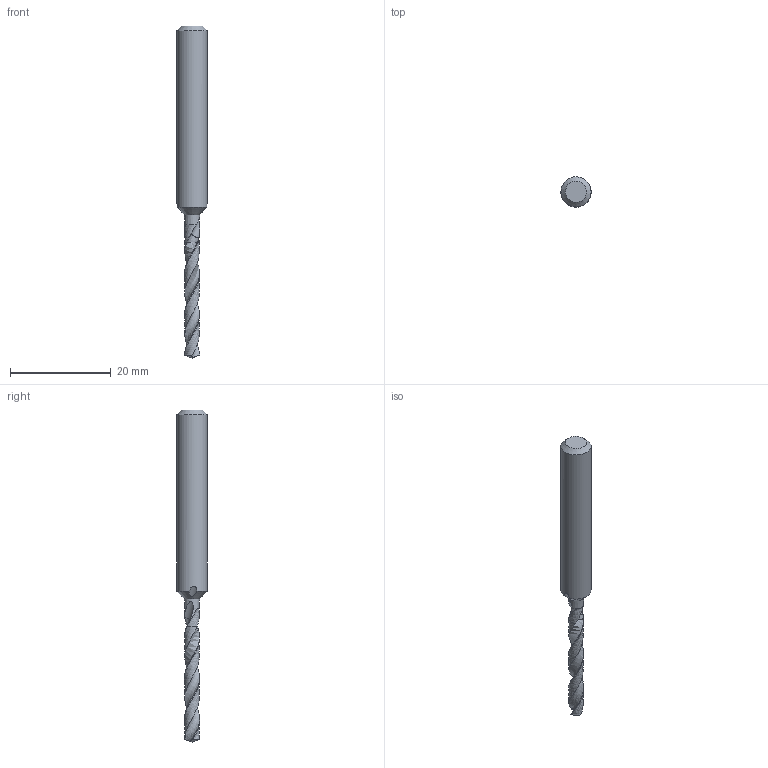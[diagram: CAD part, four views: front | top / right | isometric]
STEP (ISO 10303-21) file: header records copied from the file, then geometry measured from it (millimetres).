
FILE_DESCRIPTION(/* description */ (''),/* implementation_level */ '2;1');
FILE_NAME(/* name */ 'PLM~180329165729~TIX~0160~7462060~MOD~TM02_00~DC150-05-03.000A0-WJ30TA_ISO~FR.STP',/* time_stamp */ '2018-03-29T17:02:30+02:00',/* author */ ('VR - J.Pauli'),/* organization */ ('Walter AG'),/* preprocessor_version */ 'ST-DEVELOPER v15',/* originating_system */ 'SIEMENS PLM Software NX 8.5',/* authorisation */ '');
FILE_SCHEMA (('AUTOMOTIVE_DESIGN { 1 0 10303 214 3 1 1 1 }'));
Length unit declared in the file: millimetre
Products named in the file (1): PLM~180329165729~TIX~0160~7462060~MOD~TM02_00~DC150-05-03.000A0-WJ30T
A_ISO~FR
Bounding box: 6 x 6 x 66 mm (x, y, z)
Volume: 1147.8 mm3; surface area: 1009 mm2
Topology: 2 solids, 2 shells, 24 faces, 63 edges, 45 vertices
Faces by surface type: bspline 8, cone 6, plane 5, cylinder 5
Full cylindrical faces by diameter (mm): 6 x1
Entity records: 15014 total; most frequent: CARTESIAN_POINT 14486, ORIENTED_EDGE 102, DIRECTION 73, EDGE_CURVE 51, VERTEX_POINT 36, B_SPLINE_CURVE_WITH_KNOTS 36, AXIS2_PLACEMENT_3D 35, EDGE_LOOP 28
